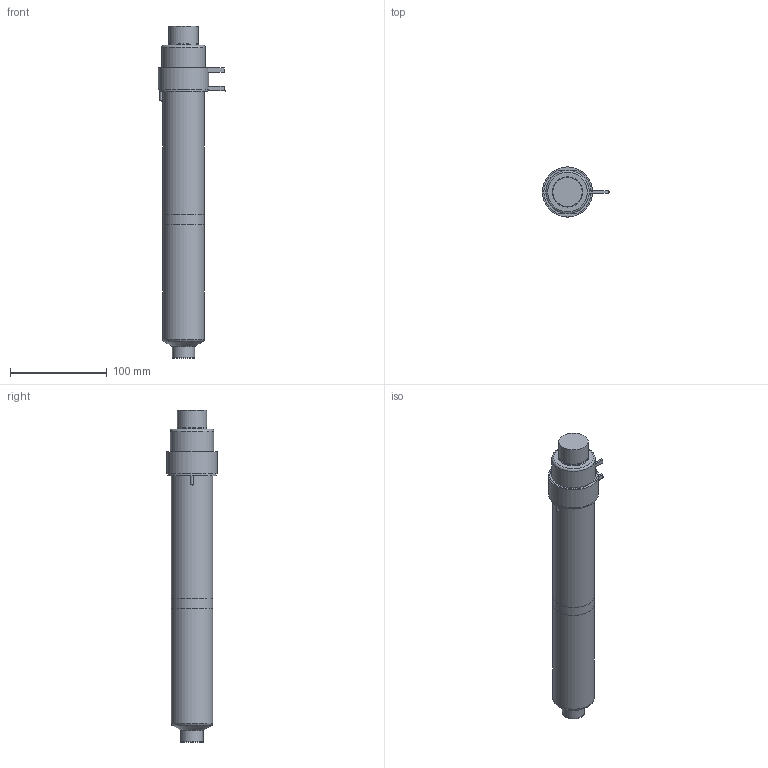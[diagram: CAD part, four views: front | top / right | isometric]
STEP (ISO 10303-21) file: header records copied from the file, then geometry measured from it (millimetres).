
FILE_DESCRIPTION(/* description */ (''),/* implementation_level */ '2;1');
FILE_NAME(/* name */ 'SXTBE-SXIBE-SXOBE27275_200C_a',/* time_stamp */ '2016-03-03T10:31:50+13:00',/* author */ (''),/* organization */ (''),/* preprocessor_version */ 'ST-DEVELOPER v9',/* originating_system */ 'UGS - NX 4.0',/* authorisation */ '');
FILE_SCHEMA (('CONFIG_CONTROL_DESIGN'));
Length unit declared in the file: millimetre
Products named in the file (1): matt0BBCfh7f
Bounding box: 69.6 x 52 x 343.93 mm (x, y, z)
Volume: 874822 mm3; surface area: 98352.4 mm2
Topology: 7 solids, 7 shells, 92 faces, 181 edges, 117 vertices
Faces by surface type: plane 43, cylinder 28, torus 10, cone 10, bspline 1
Full cylindrical faces by diameter (mm): 1 x3, 2 x1, 2.5 x2, 12 x1, 22.61 x1, 23.01 x2, 27.5 x1, 30 x1, 30.4 x1, 38.1 x2, 43 x2, 45 x1, 50 x1, 52 x1
Entity records: 2377 total; most frequent: CARTESIAN_POINT 543, DIRECTION 384, ORIENTED_EDGE 278, AXIS2_PLACEMENT_3D 167, EDGE_LOOP 140, EDGE_CURVE 139, VERTEX_POINT 110, ADVANCED_FACE 92
